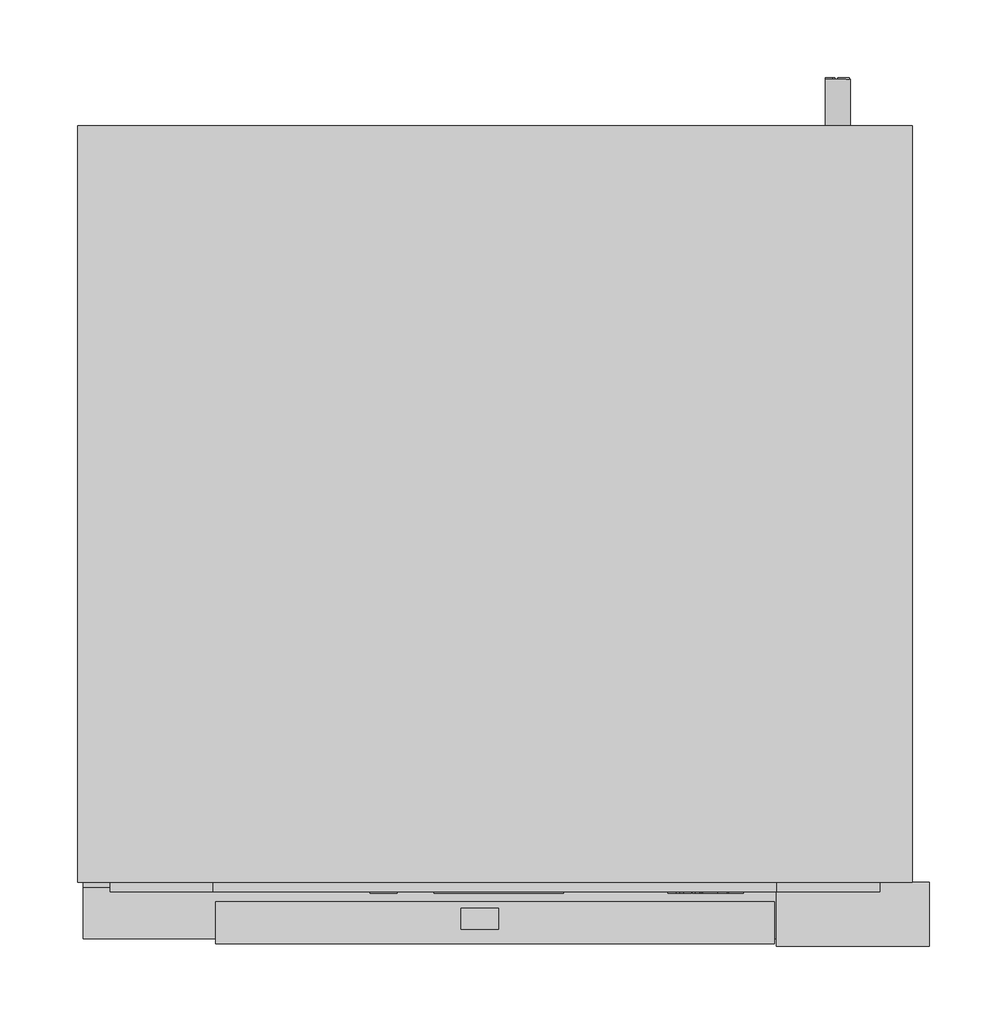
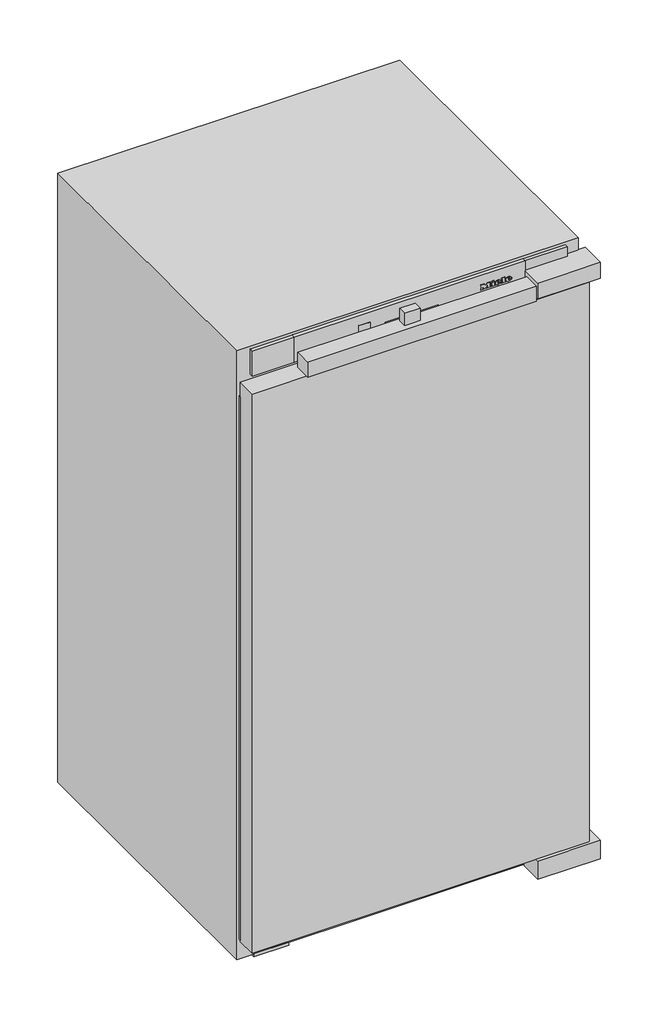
# Not in any storey: 1 proxy.
"""IFC4 building model written with IfcOpenShell, lengths in millimetres."""

from ifc_helpers import new_model, si_unit, origin, place, context, project, spatial, transform, mapped, element, save
from components import specialty_equipment_9b2ff7b9

model = new_model("IFC4")

# Units and contexts
model_context = context("Model", 3, world=origin())
ifc_project = project(units=[si_unit("LENGTHUNIT", "METRE", prefix="MILLI")], contexts=[model_context])

# Site, building
site = spatial("IfcSite", under=ifc_project)
building = spatial("IfcBuilding", under=site)

# Proxy
placement = place(None, origin())
specialty_equipment_shape = specialty_equipment_9b2ff7b9(model_context)
element("IfcBuildingElementProxy", 1, Name="11990800_EU1_K7216E : 36721605_EU1_11990800_K7216E", ObjectType="11990800_EU1_K7216E : 36721605_EU1_11990800_K7216E", at=placement, inside=building, context=model_context, shape_type="MappedRepresentation", body=[
    mapped(specialty_equipment_shape, transform((0.0, 0.0, 0.0), x_axis=(1.0, 0.0, 0.0), y_axis=(0.0, 1.0, 0.0), z_axis=(0.0, 0.0, 1.0))),
])

save(model, "model.ifc")
